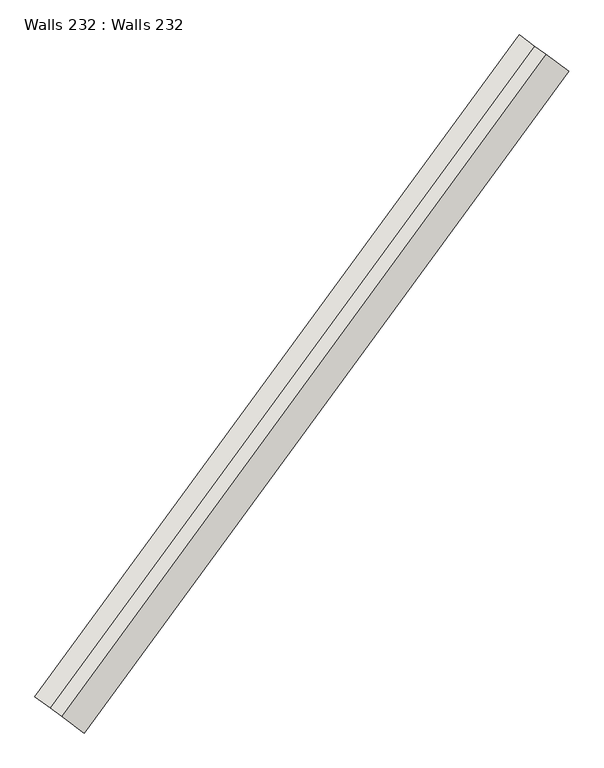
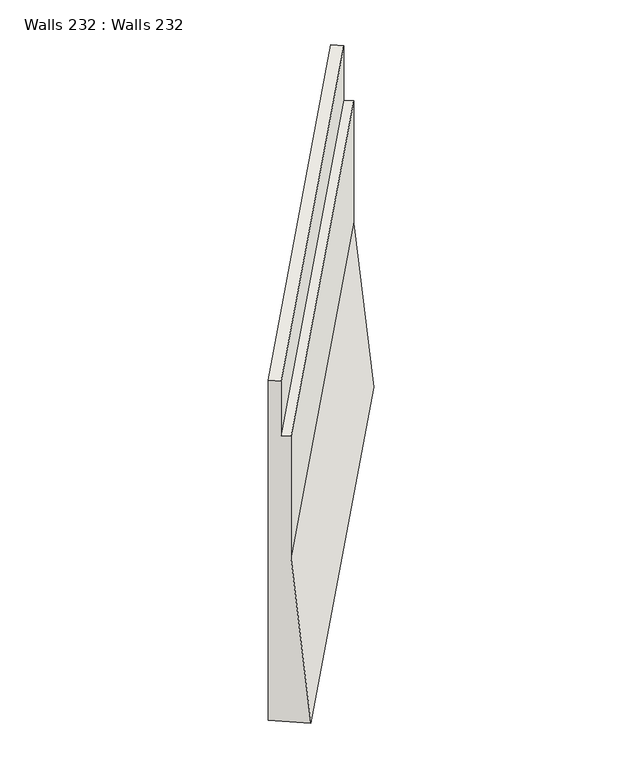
"""IFC4 building model written with IfcOpenShell, lengths in millimetres: wall geometry, Walls 232 : Walls 232."""

from ifc_helpers import new_model, si_unit, origin, place, context, project, spatial, faceted_brep, source, transform, mapped, element, save


def walls_232_walls_232_bdaeb8a2(model_context):
    return source(origin(), model_context, "Body", "Brep", [
        faceted_brep([(437858.582581, 319924.3372781, 646611.4), (437616.5720909, 320101.6249615, 649611.4), (437616.5720909, 320101.6249615, 651861.4), (437495.5668459, 320190.2688033, 651861.4), (437495.5668459, 320190.2688033, 652861.4), (437334.2265192, 320308.4605923, 652861.4), (437334.2265192, 320308.4605923, 646611.4), (442999.9254013, 326942.6414886, 646723.6), (442475.5693395, 327326.7648027, 646723.6), (442475.5693395, 327326.7648027, 652970.3), (442636.9096662, 327208.5730138, 652970.3), (442636.9096662, 327208.5730138, 651970.3), (442757.9149112, 327119.929172, 651970.3), (442757.9149112, 327119.929172, 649723.6)], [[[0, 1, 2, 3, 4, 5, 6]], [[7, 8, 9, 10, 11, 12, 13]], [[7, 13, 1, 0]], [[13, 12, 2, 1]], [[12, 11, 3, 2]], [[11, 10, 4, 3]], [[10, 9, 5, 4]], [[9, 8, 6, 5]], [[8, 7, 0, 6]]]),
    ])


if __name__ == "__main__":
    model = new_model("IFC4")
    model_context = context("Model", 3, world=origin())
    ifc_project = project(units=[si_unit("LENGTHUNIT", "METRE", prefix="MILLI")], contexts=[model_context])
    site = spatial("IfcSite", under=ifc_project)
    building = spatial("IfcBuilding", under=site)
    placement = place(None, origin())
    walls_232_walls_232_shape = walls_232_walls_232_bdaeb8a2(model_context)
    element("IfcWall", 1, ObjectType="Walls 232 : Walls 232", at=placement, inside=building, context=model_context, shape_type="MappedRepresentation", body=[
        mapped(walls_232_walls_232_shape, transform((0.0, 0.0, 0.0), x_axis=(1.0, 0.0, 0.0), y_axis=(0.0, 1.0, 0.0), z_axis=(0.0, 0.0, 1.0))),
    ])
    save(model, "model.ifc")
